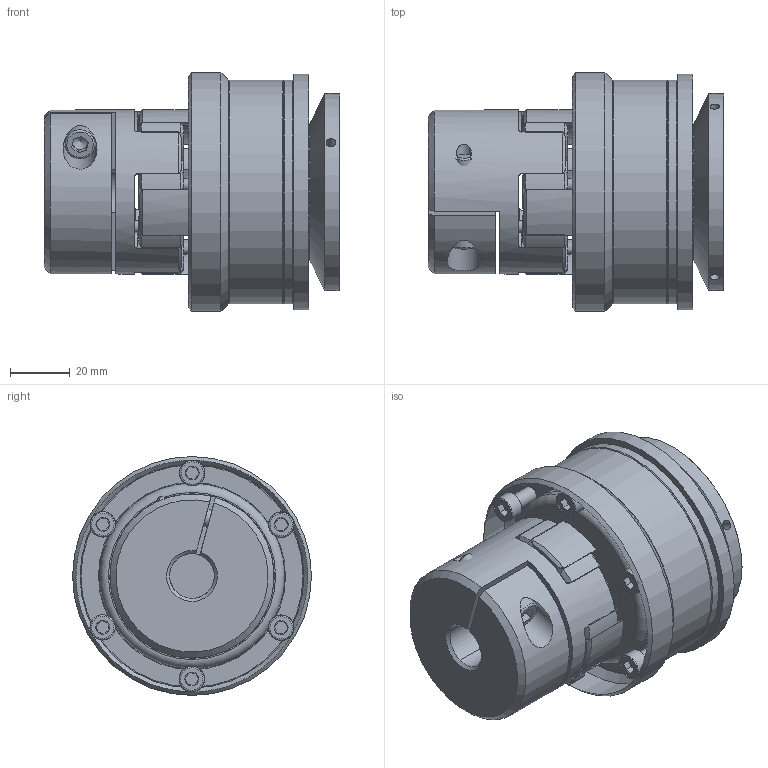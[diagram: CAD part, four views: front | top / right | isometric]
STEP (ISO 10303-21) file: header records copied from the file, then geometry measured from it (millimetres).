
FILE_DESCRIPTION( ( 'Unknown' ), '1' );
FILE_NAME( 'C:/Users/skarpstein/Desktop/Korrigierte 3D Modelle/KBK-E-KP/KBK EKP-24-87.stp', 'Unknown', ( 'Unknown' ), ( 'Unknown' ), 'PSStep 16.0.42', 'Unknown', ' ' );
FILE_SCHEMA( ( 'AUTOMOTIVE_DESIGN { 1 0 10303 214 1 1 1 1 }' ) );
Length unit declared in the file: millimetre
Products named in the file (26): ball_bearing_-_6007_0_02; ball_bearing_-_6007_0_01; ball_bearing_-_6007_0_03; Druckring 60; Assem2; a_35; Flansch 60; Stellring 60; KBK L-P-60 Grundkörper; ISO EN DIN 4762_M5x20; Elastomerflansch 24; Zahnkranz_24_Standard; Assem1; KBE 2 - 24_Nabe; Socket Head Cap Screw_DIN_DIN 912 M6 x 25 --- 25N
Assembly tree (30 placements, depth 4):
  Assem1
    KBE 2 - 24_Nabe
    Socket Head Cap Screw_DIN_DIN 912 M6 x 25 --- 25N
    KBK L-P-60 Grundkörper
      KBK L-P-60 Grundkörper
    Stellring 60
      Stellring 60
    Druckring 60
      Druckring 60
    Flansch 60
      Flansch 60
    a_35
      a_35
    Zahnkranz_24_Standard
      Zahnkranz_24_Standard
    ISO EN DIN 4762_M5x20  x6
      ISO EN DIN 4762_M5x20
    Elastomerflansch 24
      Elastomerflansch 24
    Assem2
      ball_bearing_-_6007_0_01
        ball_bearing_-_6007_0_01
      ball_bearing_-_6007_0_02
        ball_bearing_-_6007_0_02
      ball_bearing_-_6007_0_03
        ball_bearing_-_6007_0_03
Bounding box: 99 x 80 x 80 mm (x, y, z)
Volume: 277687.1 mm3; surface area: 108361.9 mm2
Topology: 18 solids, 18 shells, 505 faces, 1086 edges, 652 vertices
Faces by surface type: plane 164, cone 163, cylinder 144, torus 34
Full cylindrical faces by diameter (mm): 2.5 x2, 3.242 x3, 4 x11, 4.134 x6, 5 x7, 5.2 x6, 6 x1, 6.5 x1, 8.5 x12, 10 x1, 11.4 x1, 15 x1, 27 x2, 30 x1, 33 x1, 35 x3, 43.7 x2, 44 x1, 46 x2, 46.5 x1, 53.6 x2, 55 x2, 61.3 x1, 62 x3, 66 x1, 75 x2, 79 x1, 80 x1
Entity records: 14820 total; most frequent: CARTESIAN_POINT 2733, DIRECTION 1932, ORIENTED_EDGE 1508, AXIS2_PLACEMENT_3D 890, EDGE_CURVE 754, EDGE_LOOP 572, VERTEX_POINT 515, FACE_OUTER_BOUND 481
